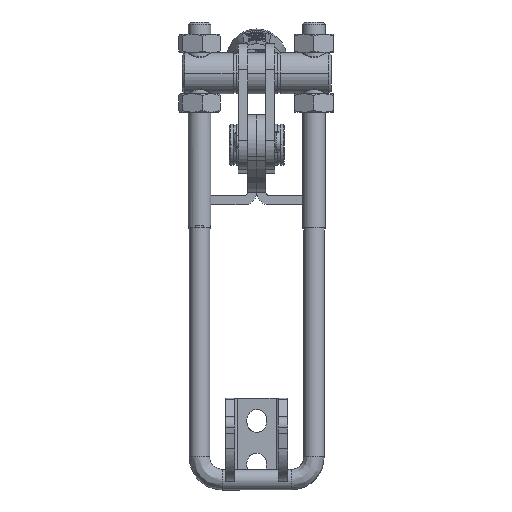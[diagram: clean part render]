
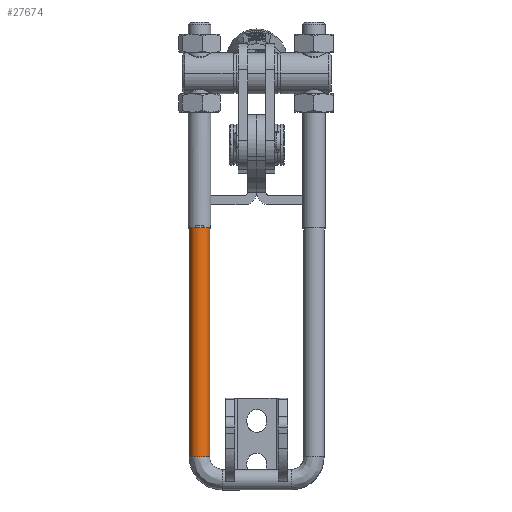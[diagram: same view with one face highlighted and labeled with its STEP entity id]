
A CAD part, left-side view. The second image highlights one B-rep face of the part: STEP entity #27674.
In plain terms, the highlighted cylindrical face has radius 4.5 mm (diameter 9 mm), a partial arc.
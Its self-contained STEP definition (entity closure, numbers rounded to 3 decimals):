
#417 = CARTESIAN_POINT ( 'NONE',  ( 10., 0., -25. ) ) ;
#1266 = DIRECTION ( 'NONE',  ( 1., 0., 0. ) ) ;
#2074 = CARTESIAN_POINT ( 'NONE',  ( 110., 0., -25. ) ) ;
#3052 = FACE_OUTER_BOUND ( 'NONE', #18374, .T. ) ;
#3573 = EDGE_CURVE ( 'NONE', #29080, #23680, #7530, .T. ) ;
#4070 = VERTEX_POINT ( 'NONE', #9572 ) ;
#5617 = CARTESIAN_POINT ( 'NONE',  ( 110., 0., -29.5 ) ) ;
#6558 = CIRCLE ( 'NONE', #23340, 4.5 ) ;
#6857 = CARTESIAN_POINT ( 'NONE',  ( 10., 0., -29.5 ) ) ;
#7530 = LINE ( 'NONE', #29525, #23318 ) ;
#7690 = DIRECTION ( 'NONE',  ( 1., 0., 0. ) ) ;
#9572 = CARTESIAN_POINT ( 'NONE',  ( 10., 0., -29.5 ) ) ;
#11987 = EDGE_CURVE ( 'NONE', #4070, #29080, #17893, .T. ) ;
#17893 = CIRCLE ( 'NONE', #30148, 4.5 ) ;
#18195 = AXIS2_PLACEMENT_3D ( 'NONE', #27438, #1266, #20402 ) ;
#18374 = EDGE_LOOP ( 'NONE', ( #30675, #19563, #29161, #26392 ) ) ;
#19258 = VECTOR ( 'NONE', #26306, 1000. ) ;
#19563 = ORIENTED_EDGE ( 'NONE', *, *, #3573, .T. ) ;
#19877 = DIRECTION ( 'NONE',  ( 0., 0., -1. ) ) ;
#20402 = DIRECTION ( 'NONE',  ( 0., 0., -1. ) ) ;
#21328 = VERTEX_POINT ( 'NONE', #5617 ) ;
#22445 = CARTESIAN_POINT ( 'NONE',  ( 10., 0., -20.5 ) ) ;
#22586 = DIRECTION ( 'NONE',  ( 1., 0., 0. ) ) ;
#22629 = CARTESIAN_POINT ( 'NONE',  ( 110., 0., -20.5 ) ) ;
#23123 = CYLINDRICAL_SURFACE ( 'NONE', #18195, 4.5 ) ;
#23318 = VECTOR ( 'NONE', #7690, 1000. ) ;
#23340 = AXIS2_PLACEMENT_3D ( 'NONE', #2074, #24081, #27700 ) ;
#23680 = VERTEX_POINT ( 'NONE', #22629 ) ;
#24081 = DIRECTION ( 'NONE',  ( -1., 0., 0. ) ) ;
#26306 = DIRECTION ( 'NONE',  ( 1., 0., 0. ) ) ;
#26392 = ORIENTED_EDGE ( 'NONE', *, *, #28989, .F. ) ;
#27438 = CARTESIAN_POINT ( 'NONE',  ( 10., 0., -25. ) ) ;
#27674 = ADVANCED_FACE ( 'NONE', ( #3052 ), #23123, .T. ) ;
#27700 = DIRECTION ( 'NONE',  ( 0., 0., -1. ) ) ;
#28989 = EDGE_CURVE ( 'NONE', #4070, #21328, #31116, .T. ) ;
#29036 = EDGE_CURVE ( 'NONE', #23680, #21328, #6558, .T. ) ;
#29080 = VERTEX_POINT ( 'NONE', #22445 ) ;
#29161 = ORIENTED_EDGE ( 'NONE', *, *, #29036, .T. ) ;
#29525 = CARTESIAN_POINT ( 'NONE',  ( 10., 0., -20.5 ) ) ;
#30148 = AXIS2_PLACEMENT_3D ( 'NONE', #417, #22586, #19877 ) ;
#30675 = ORIENTED_EDGE ( 'NONE', *, *, #11987, .T. ) ;
#31116 = LINE ( 'NONE', #6857, #19258 ) ;
